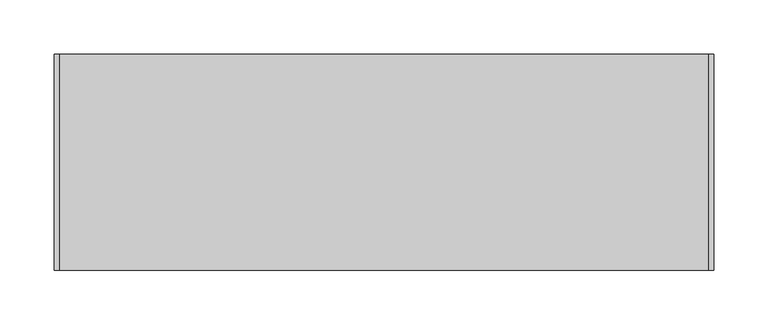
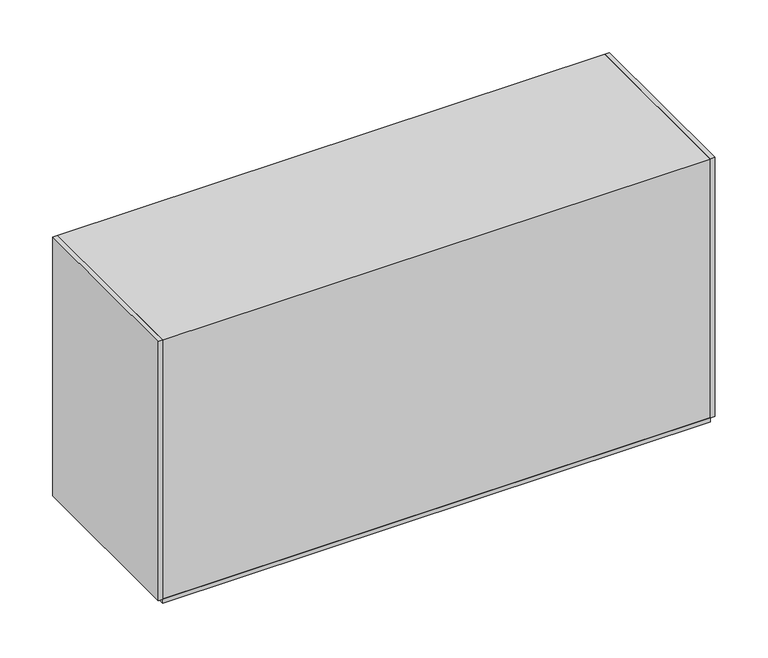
"""IFC4 building model written with IfcOpenShell, lengths in millimetres: proxy geometry, Módulo de Vedação de Concreto Celular - Celucon : MVCC 20x30x60cm (L x A x C)."""

from ifc_helpers import new_model, si_unit, frame, origin, origin_with_axes, place, context, project, spatial, polyline, outline, extrude, source, transform, mapped, element, save


def generic_models_badda9a8(model_context):
    return source(origin(), model_context, "Body", "SweptSolid", [
        extrude(outline(polyline([(300.0, -100.0), (-300.0, -100.0), (-300.0, 100.0), (300.0, 100.0), (300.0, -100.0)])), frame((0.0, 0.0, -5.0), z_axis=(0.0, 0.0, 1.0), x_axis=(1.0, 0.0, 0.0)), (0.0, 0.0, 1.0), 5.0),
        extrude(outline(polyline([(305.0, -100.0), (300.0, -100.0), (300.0, 100.0), (305.0, 100.0), (305.0, -100.0)])), origin_with_axes(), (0.0, 0.0, 1.0), 300.0),
        extrude(outline(polyline([(-300.0, -100.0), (-305.0, -100.0), (-305.0, 100.0), (-300.0, 100.0), (-300.0, -100.0)])), origin_with_axes(), (0.0, 0.0, 1.0), 300.0),
        extrude(outline(polyline([(300.0, 100.0), (300.0, -100.0), (-300.0, -100.0), (-300.0, 100.0), (300.0, 100.0)])), origin_with_axes(), (0.0, 0.0, 1.0), 300.0),
    ])


if __name__ == "__main__":
    model = new_model("IFC4")
    model_context = context("Model", 3, world=origin())
    ifc_project = project(units=[si_unit("LENGTHUNIT", "METRE", prefix="MILLI")], contexts=[model_context])
    site = spatial("IfcSite", under=ifc_project)
    building = spatial("IfcBuilding", under=site)
    placement = place(None, origin())
    generic_models_shape = generic_models_badda9a8(model_context)
    element("IfcBuildingElementProxy", 1, Name="Módulo de Vedação de Concreto Celular - Celucon : MVCC 20x30x60cm (L x A x C)", ObjectType="Módulo de Vedação de Concreto Celular - Celucon : MVCC 20x30x60cm (L x A x C)", at=placement, inside=building, context=model_context, shape_type="MappedRepresentation", body=[
        mapped(generic_models_shape, transform((0.0, 0.0, 0.0), x_axis=(1.0, 0.0, 0.0), y_axis=(0.0, 1.0, 0.0), z_axis=(0.0, 0.0, 1.0))),
    ])
    save(model, "model.ifc")
